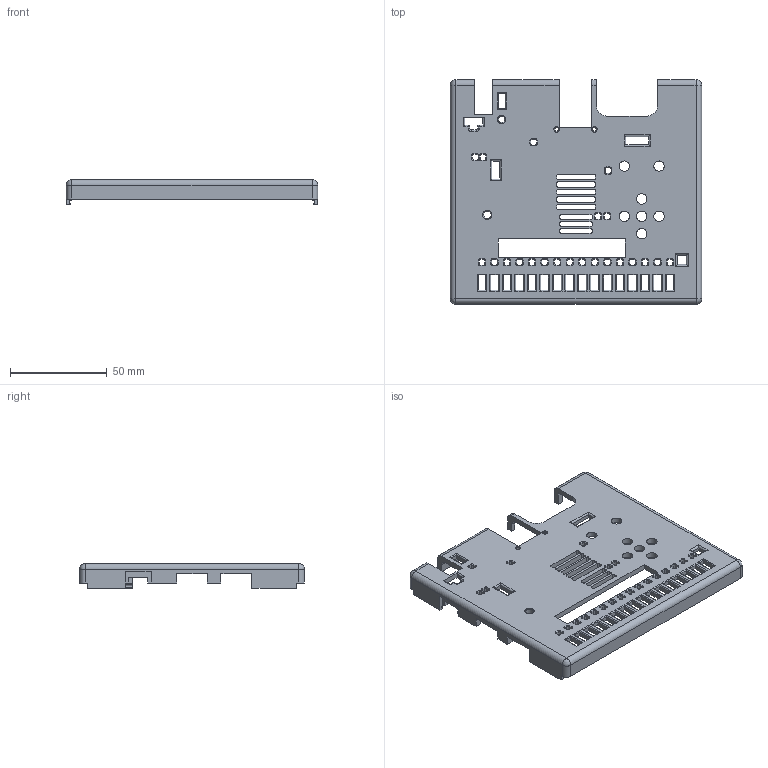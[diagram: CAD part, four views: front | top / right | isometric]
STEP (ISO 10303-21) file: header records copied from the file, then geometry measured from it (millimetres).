
FILE_DESCRIPTION(/* description */ ('STEP AP242 Edition 2','CAx-IF Rec.Pracs.---Representation and Presentation of Product Manufacturing Information (PMI)---4.0---2014-10-13','CAx-IF Rec.Pracs.---3D Tessellated Geometry---0.4---2014-09-14','2;1','CAx-IF Rec.Pracs.---User Defined Attributes---1.5---2016-08-15'),/* implementation_level */ '2;1');
FILE_NAME(/* name */ 'Untitled - Ventilation',/* time_stamp */ '2026-05-27T17:41:48Z',/* author */ (''),/* organization */ (''),/* preprocessor_version */ 'ST-DEVELOPER v20',/* originating_system */ 'ONSHAPE BY PTC INC, 1.215',/* authorisation */ ' ');
FILE_SCHEMA (('AP242_MANAGED_MODEL_BASED_3D_ENGINEERING_MIM_LF { 1 0 10303 442 3 1 4 }'));
Length unit declared in the file: metre
Products named in the file (1): Ventilation
Bounding box: 130.36 x 116.46 x 12.92 mm (x, y, z)
Volume: 41108 mm3; surface area: 34184.8 mm2
Topology: 1 solids, 1 shells, 761 faces, 1991 edges, 1226 vertices
Faces by surface type: cylinder 352, plane 304, torus 99, sphere 6
Full cylindrical faces by diameter (mm): 2 x2, 4 x1, 5.35 x7
Entity records: 23389 total; most frequent: DIRECTION 4230, CARTESIAN_POINT 3964, ORIENTED_EDGE 3944, EDGE_CURVE 1972, AXIS2_PLACEMENT_3D 1497, LINE 1236, VECTOR 1236, VERTEX_POINT 1226
